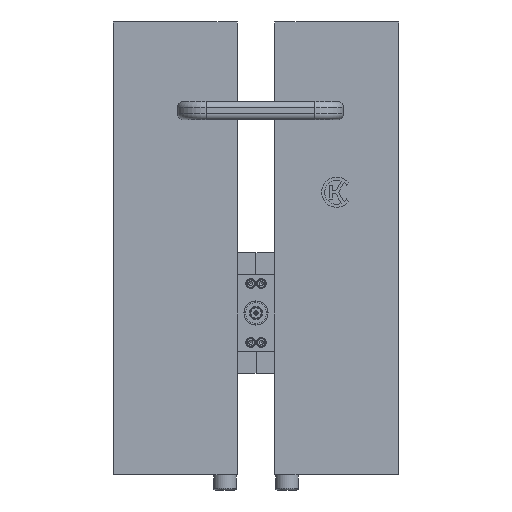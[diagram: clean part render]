
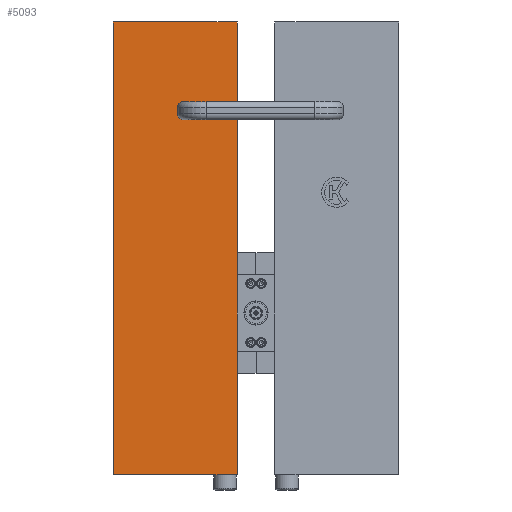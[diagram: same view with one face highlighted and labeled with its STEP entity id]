
A CAD part, front view. The second image highlights one B-rep face of the part: STEP entity #5093.
In plain terms, the highlighted planar face has unit normal (0, -1, 0) as drawn and (-1, 0, 0) by its records, which use the part's own axes.
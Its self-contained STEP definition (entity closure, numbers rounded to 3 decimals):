
#5093=ADVANCED_FACE('',(#10034),#10036,.T.);
#10034=FACE_BOUND('',#10035,.T.);
#10035=EDGE_LOOP('',(#15234,#15235,#15236,#15237));
#10036=PLANE('',#10037);
#10037=AXIS2_PLACEMENT_3D('',#10038,#10039,#10040);
#10038=CARTESIAN_POINT('',(-150.,0.,-150.));
#10039=DIRECTION('',(-1.,0.,0.));
#10040=DIRECTION('',(0.,-1.,0.));
#15234=ORIENTED_EDGE('',*,*,#17251,.T.);
#15235=ORIENTED_EDGE('',*,*,#17481,.T.);
#15236=ORIENTED_EDGE('',*,*,#17271,.F.);
#15237=ORIENTED_EDGE('',*,*,#17253,.F.);
#17251=EDGE_CURVE('',#19349,#19347,#19350,.T.);
#17253=EDGE_CURVE('',#19349,#19352,#19353,.T.);
#17271=EDGE_CURVE('',#19352,#19387,#19388,.T.);
#17481=EDGE_CURVE('',#19347,#19387,#19710,.T.);
#19347=VERTEX_POINT('',#23682);
#19349=VERTEX_POINT('',#23686);
#19350=LINE('',#23687,#23688);
#19352=VERTEX_POINT('',#23693);
#19353=LINE('',#23694,#23695);
#19387=VERTEX_POINT('',#23780);
#19388=LINE('',#23781,#23782);
#19710=LINE('',#24539,#24540);
#23682=CARTESIAN_POINT('',(-150.,-82.,-150.));
#23686=CARTESIAN_POINT('',(-150.,0.,-150.));
#23687=CARTESIAN_POINT('',(-150.,0.,-150.));
#23688=VECTOR('',#23689,1.);
#23689=DIRECTION('',(0.,-1.,0.));
#23693=CARTESIAN_POINT('',(-150.,0.,150.));
#23694=CARTESIAN_POINT('',(-150.,0.,-150.));
#23695=VECTOR('',#23696,1.);
#23696=DIRECTION('',(0.,0.,1.));
#23780=CARTESIAN_POINT('',(-150.,-82.,150.));
#23781=CARTESIAN_POINT('',(-150.,0.,150.));
#23782=VECTOR('',#23783,1.);
#23783=DIRECTION('',(0.,-1.,0.));
#24539=CARTESIAN_POINT('',(-150.,-82.,-150.));
#24540=VECTOR('',#24541,1.);
#24541=DIRECTION('',(0.,0.,1.));
